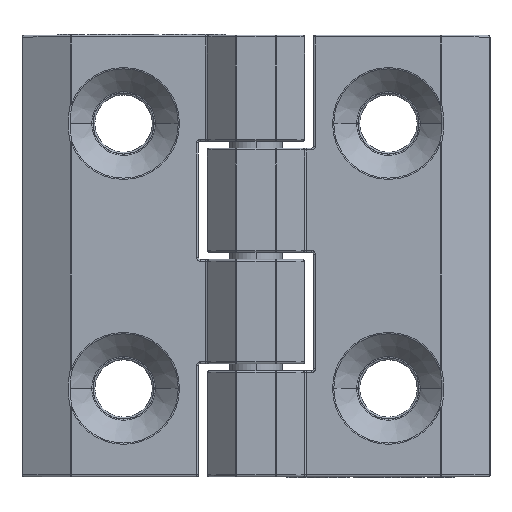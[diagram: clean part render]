
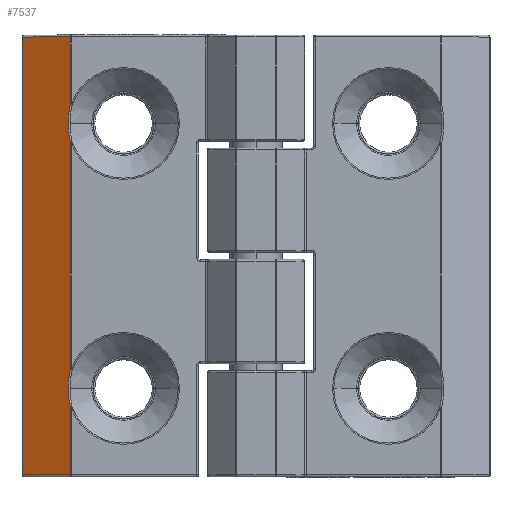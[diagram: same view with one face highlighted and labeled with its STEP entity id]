
A CAD part, top view. The second image highlights one B-rep face of the part: STEP entity #7537.
In plain terms, the highlighted planar face has unit normal (-0.479, 0, 0.878).
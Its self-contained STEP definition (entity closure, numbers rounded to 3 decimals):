
#650 = ORIENTED_EDGE ( 'NONE', *, *, #2182, .T. ) ;
#661 = CARTESIAN_POINT ( 'NONE',  ( -21.045, 37.829, -0.026 ) ) ;
#1011 = LINE ( 'NONE', #3434, #7610 ) ;
#1012 = CARTESIAN_POINT ( 'NONE',  ( -21.045, 7.829, -0.026 ) ) ;
#1450 = DIRECTION ( 'NONE',  ( 0., 1., 0. ) ) ;
#1646 = CARTESIAN_POINT ( 'NONE',  ( -21.045, 50., -0.026 ) ) ;
#1672 = CARTESIAN_POINT ( 'NONE',  ( -21.045, 42.171, -0.026 ) ) ;
#1676 = ORIENTED_EDGE ( 'NONE', *, *, #6840, .T. ) ;
#2182 = EDGE_CURVE ( 'NONE', #16073, #13905, #13585, .T. ) ;
#2197 = CARTESIAN_POINT ( 'NONE',  ( -21.377, 40.733, -0.207 ) ) ;
#2654 = DIRECTION ( 'NONE',  ( -0.878, 0., -0.479 ) ) ;
#3434 = CARTESIAN_POINT ( 'NONE',  ( -21.045, 50., -0.026 ) ) ;
#3699 = ORIENTED_EDGE ( 'NONE', *, *, #3958, .T. ) ;
#3871 = DIRECTION ( 'NONE',  ( 0., 1., 0. ) ) ;
#3958 = EDGE_CURVE ( 'NONE', #13905, #12422, #16474, .T. ) ;
#4031 = CARTESIAN_POINT ( 'NONE',  ( -26.396, 0.2, -2.943 ) ) ;
#4065 = ORIENTED_EDGE ( 'NONE', *, *, #4574, .T. ) ;
#4089 = VECTOR ( 'NONE', #9555, 1000. ) ;
#4472 = ORIENTED_EDGE ( 'NONE', *, *, #13618, .T. ) ;
#4574 = EDGE_CURVE ( 'NONE', #12637, #5360, #1011, .T. ) ;
#4706 = CARTESIAN_POINT ( 'NONE',  ( -21.377, 10.733, -0.207 ) ) ;
#4776 = DIRECTION ( 'NONE',  ( 0., -1., 0. ) ) ;
#4914 = CARTESIAN_POINT ( 'NONE',  ( -21.045, 7.829, -0.026 ) ) ;
#4981 = ORIENTED_EDGE ( 'NONE', *, *, #8919, .T. ) ;
#5060 = ORIENTED_EDGE ( 'NONE', *, *, #15966, .T. ) ;
#5120 = EDGE_LOOP ( 'NONE', ( #4065, #6227, #4981, #650, #3699, #5060, #4472, #1676 ) ) ;
#5281 = FACE_OUTER_BOUND ( 'NONE', #5120, .T. ) ;
#5360 = VERTEX_POINT ( 'NONE', #1012 ) ;
#5864 = DIRECTION ( 'NONE',  ( 0.479, 0., -0.878 ) ) ;
#6187 = VERTEX_POINT ( 'NONE', #16629 ) ;
#6227 = ORIENTED_EDGE ( 'NONE', *, *, #7133, .T. ) ;
#6231 = VECTOR ( 'NONE', #1450, 1000. ) ;
#6583 = CARTESIAN_POINT ( 'NONE',  ( -26.5, 50., -3. ) ) ;
#6840 = EDGE_CURVE ( 'NONE', #13324, #12637, #11819, .T. ) ;
#6866 = LINE ( 'NONE', #1646, #14016 ) ;
#7133 = EDGE_CURVE ( 'NONE', #5360, #6187, #7778, .T. ) ;
#7537 = ADVANCED_FACE ( 'NONE', ( #5281 ), #7898, .F. ) ;
#7549 = LINE ( 'NONE', #12810, #14683 ) ;
#7610 = VECTOR ( 'NONE', #3871, 1000. ) ;
#7622 = LINE ( 'NONE', #14903, #4089 ) ;
#7778 =( BOUNDED_CURVE ( )  B_SPLINE_CURVE ( 3, ( #4914, #14067, #4706, #16066 ),
 .UNSPECIFIED., .F., .T. ) 
 B_SPLINE_CURVE_WITH_KNOTS ( ( 4, 4 ),
 ( 2.95, 3.333 ),
 .UNSPECIFIED. ) 
 CURVE ( )  GEOMETRIC_REPRESENTATION_ITEM ( )  RATIONAL_B_SPLINE_CURVE ( ( 1., 0.988, 0.988, 1. ) ) 
 REPRESENTATION_ITEM ( '' )  );
#7898 = PLANE ( 'NONE',  #8221 ) ;
#7945 = CARTESIAN_POINT ( 'NONE',  ( -21.045, 42.171, -0.026 ) ) ;
#8221 = AXIS2_PLACEMENT_3D ( 'NONE', #6583, #5864, #2654 ) ;
#8919 = EDGE_CURVE ( 'NONE', #6187, #16073, #6866, .T. ) ;
#9211 = CARTESIAN_POINT ( 'NONE',  ( -26.5, 0.2, -3. ) ) ;
#9555 = DIRECTION ( 'NONE',  ( -0.878, 0., -0.479 ) ) ;
#9579 = DIRECTION ( 'NONE',  ( 0., 1., 0. ) ) ;
#10423 = CARTESIAN_POINT ( 'NONE',  ( -21.045, 0.2, -0.026 ) ) ;
#11636 = CARTESIAN_POINT ( 'NONE',  ( -26.396, 49.8, -2.943 ) ) ;
#11819 = LINE ( 'NONE', #9211, #14939 ) ;
#12422 = VERTEX_POINT ( 'NONE', #12847 ) ;
#12637 = VERTEX_POINT ( 'NONE', #10423 ) ;
#12810 = CARTESIAN_POINT ( 'NONE',  ( -26.396, 50., -2.943 ) ) ;
#12847 = CARTESIAN_POINT ( 'NONE',  ( -21.045, 49.8, -0.026 ) ) ;
#12878 = CARTESIAN_POINT ( 'NONE',  ( -21.377, 39.267, -0.207 ) ) ;
#13324 = VERTEX_POINT ( 'NONE', #4031 ) ;
#13585 =( BOUNDED_CURVE ( )  B_SPLINE_CURVE ( 3, ( #661, #12878, #2197, #1672 ),
 .UNSPECIFIED., .F., .F. ) 
 B_SPLINE_CURVE_WITH_KNOTS ( ( 4, 4 ),
 ( 2.95, 3.333 ),
 .UNSPECIFIED. ) 
 CURVE ( )  GEOMETRIC_REPRESENTATION_ITEM ( )  RATIONAL_B_SPLINE_CURVE ( ( 1., 0.988, 0.988, 1. ) ) 
 REPRESENTATION_ITEM ( '' )  );
#13618 = EDGE_CURVE ( 'NONE', #13716, #13324, #7549, .T. ) ;
#13716 = VERTEX_POINT ( 'NONE', #11636 ) ;
#13905 = VERTEX_POINT ( 'NONE', #7945 ) ;
#14016 = VECTOR ( 'NONE', #9579, 1000. ) ;
#14067 = CARTESIAN_POINT ( 'NONE',  ( -21.377, 9.267, -0.207 ) ) ;
#14683 = VECTOR ( 'NONE', #4776, 1000. ) ;
#14903 = CARTESIAN_POINT ( 'NONE',  ( -26.5, 49.8, -3. ) ) ;
#14939 = VECTOR ( 'NONE', #15990, 1000. ) ;
#15966 = EDGE_CURVE ( 'NONE', #12422, #13716, #7622, .T. ) ;
#15990 = DIRECTION ( 'NONE',  ( 0.878, 0., 0.479 ) ) ;
#16066 = CARTESIAN_POINT ( 'NONE',  ( -21.045, 12.171, -0.026 ) ) ;
#16073 = VERTEX_POINT ( 'NONE', #16415 ) ;
#16415 = CARTESIAN_POINT ( 'NONE',  ( -21.045, 37.829, -0.026 ) ) ;
#16474 = LINE ( 'NONE', #16746, #6231 ) ;
#16629 = CARTESIAN_POINT ( 'NONE',  ( -21.045, 12.171, -0.026 ) ) ;
#16746 = CARTESIAN_POINT ( 'NONE',  ( -21.045, 50., -0.026 ) ) ;
